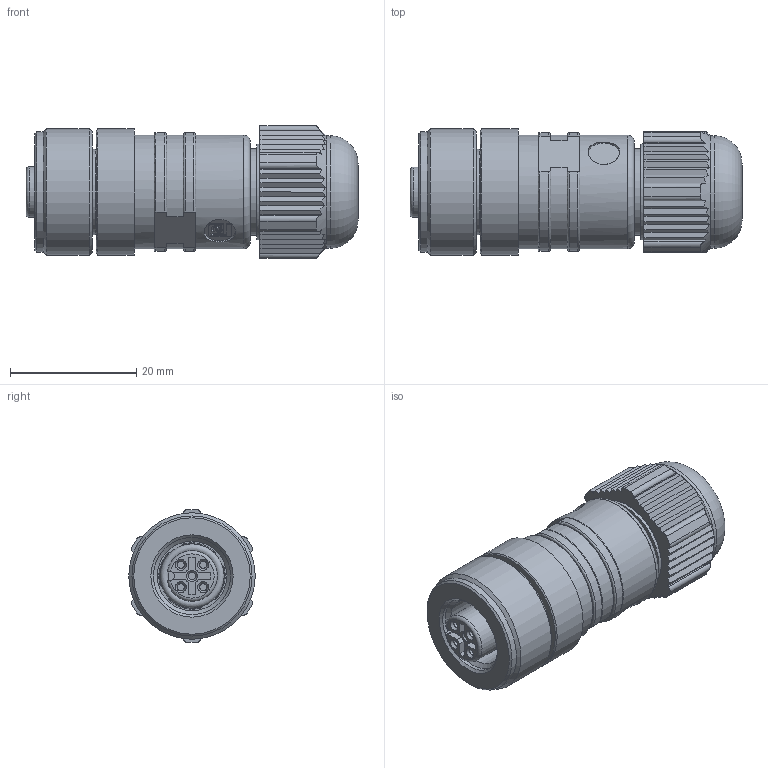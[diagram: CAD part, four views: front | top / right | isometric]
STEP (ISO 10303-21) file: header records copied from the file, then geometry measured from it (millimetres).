
FILE_DESCRIPTION( ( 'Unknown' ), '1' );
FILE_NAME( 'C:/Users/txr10011/Documents/1_in Bearbeitung/150217/Step Carmen/01-Vorlagen_Hilfsmittel/RKC 4-9/RKC 4-9.stp', 'Unknown', ( 'Unknown' ), ( 'Unknown' ), 'PSStep 15.0.49', 'Unknown', ' ' );
FILE_SCHEMA( ( 'AUTOMOTIVE_DESIGN { 1 0 10303 214 1 1 1 1 }' ) );
Length unit declared in the file: millimetre
Products named in the file (1): Gehäuse
Bounding box: 52.5 x 20 x 21 mm (x, y, z)
Surface area: 5164.7 mm2 (no closed solid volume)
Topology: 0 solids, 259 shells, 259 faces, 1329 edges, 1291 vertices
Faces by surface type: plane 162, cylinder 61, cone 18, torus 13, extrusion 5
Full cylindrical faces by diameter (mm): 1.1 x5, 5 x2, 8.3 x1, 11 x1, 12.2 x1, 13.5 x1, 13.8 x1, 15.2 x1, 17.8 x1, 18 x2, 18.2 x1, 19 x1, 20 x2
Entity records: 15972 total; most frequent: CARTESIAN_POINT 4607, DIRECTION 1791, VERTEX_POINT 1271, ORIENTED_EDGE 1270, EDGE_CURVE 1270, VECTOR 689, LINE 684, AXIS2_PLACEMENT_3D 551
